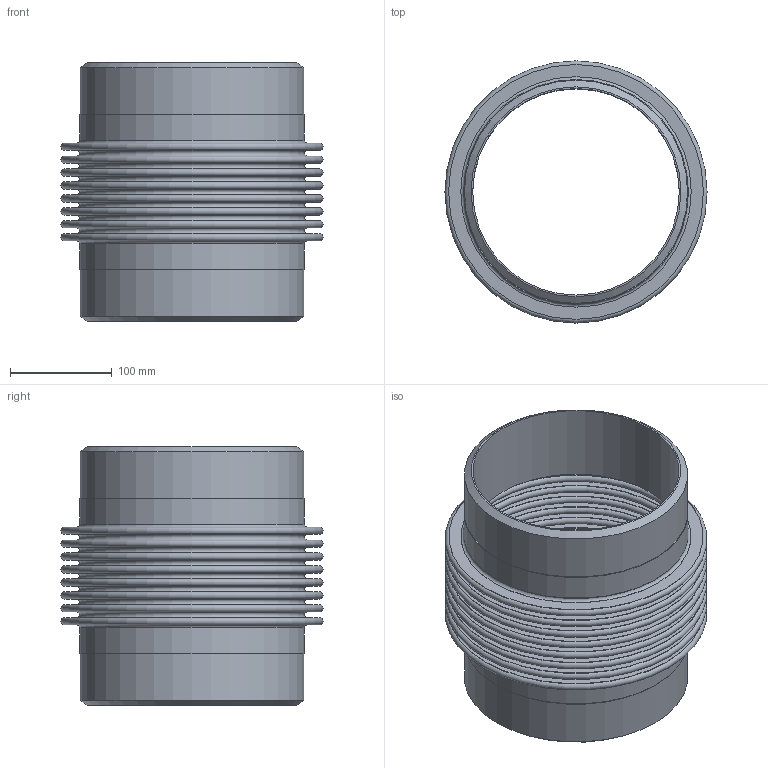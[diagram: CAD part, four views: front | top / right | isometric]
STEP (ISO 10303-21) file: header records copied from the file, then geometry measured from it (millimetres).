
FILE_DESCRIPTION(/* description */ (''),/* implementation_level */ '2;1');
FILE_NAME(/* name */ 'PIPE- 8- 85 PSIG.stp',/* time_stamp */ '2026-07-23T09:33:26-05:00',/* author */ ('jorgef'),/* organization */ (''),/* preprocessor_version */ 'ST-DEVELOPER v20.1',/* originating_system */ 'Autodesk Inventor 2026',/* authorisation */ '');
FILE_SCHEMA (('AUTOMOTIVE_DESIGN { 1 0 10303 214 3 1 1 }'));
Length unit declared in the file: inch
Products named in the file (1): PIPE- 8- 85 PSIG ASSEMBLY PART
Bounding box: 257.18 x 257.18 x 254 mm (x, y, z)
Volume: 1029944.2 mm3; surface area: 744810 mm2
Topology: 1 solids, 1 shells, 80 faces, 126 edges, 84 vertices
Faces by surface type: plane 38, torus 34, cylinder 6, cone 2
Full cylindrical faces by diameter (mm): 202.717 x2, 219.075 x2, 220.599 x2
Entity records: 2035 total; most frequent: DIRECTION 406, CARTESIAN_POINT 291, ORIENTED_EDGE 252, AXIS2_PLACEMENT_3D 199, EDGE_CURVE 126, EDGE_LOOP 118, CIRCLE 118, VERTEX_POINT 84
